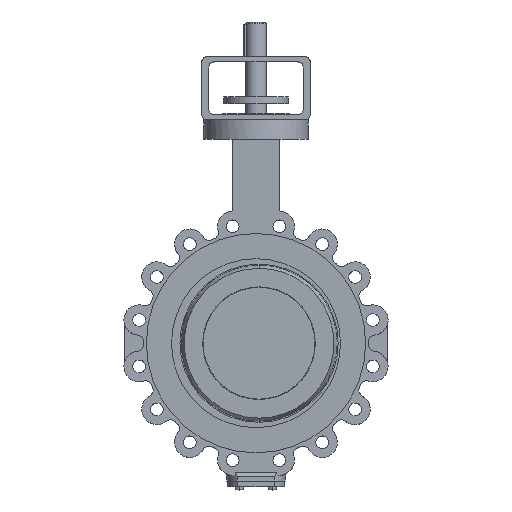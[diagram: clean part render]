
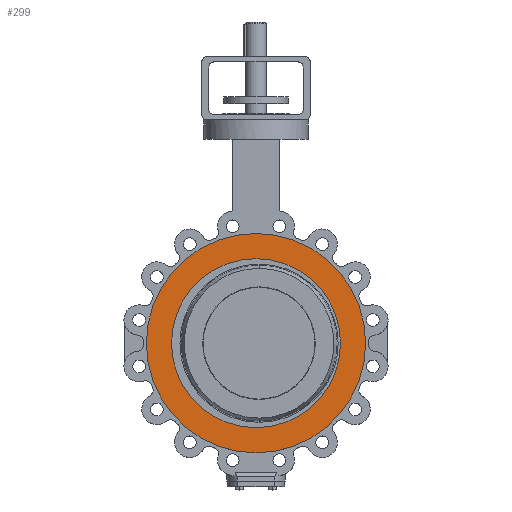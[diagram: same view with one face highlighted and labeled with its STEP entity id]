
A CAD part, top view. The second image highlights one B-rep face of the part: STEP entity #299.
In plain terms, the highlighted planar face has unit normal (0, 0, 1).
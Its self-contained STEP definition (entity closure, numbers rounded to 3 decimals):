
#299 = ADVANCED_FACE( '', ( #882, #883 ), #884, .T. );
#882 = FACE_BOUND( '', #1568, .T. );
#883 = FACE_OUTER_BOUND( '', #1569, .T. );
#884 = PLANE( '', #1570 );
#1568 = EDGE_LOOP( '', ( #3628, #3629, #3630 ) );
#1569 = EDGE_LOOP( '', ( #3631, #3632 ) );
#1570 = AXIS2_PLACEMENT_3D( '', #3633, #3634, #3635 );
#3628 = ORIENTED_EDGE( '', *, *, #4434, .F. );
#3629 = ORIENTED_EDGE( '', *, *, #4433, .F. );
#3630 = ORIENTED_EDGE( '', *, *, #5082, .F. );
#3631 = ORIENTED_EDGE( '', *, *, #4456, .T. );
#3632 = ORIENTED_EDGE( '', *, *, #5080, .T. );
#3633 = CARTESIAN_POINT( '', ( 0., 224., 70. ) );
#3634 = DIRECTION( '', ( 0., 0., 1. ) );
#3635 = DIRECTION( '', ( 0., 1., 0. ) );
#4433 = EDGE_CURVE( '', #5328, #5331, #5332, .T. );
#4434 = EDGE_CURVE( '', #5331, #5333, #5334, .T. );
#4456 = EDGE_CURVE( '', #5371, #5375, #5377, .T. );
#5080 = EDGE_CURVE( '', #5375, #5371, #6424, .T. );
#5082 = EDGE_CURVE( '', #5333, #5328, #6426, .T. );
#5328 = VERTEX_POINT( '', #6774 );
#5331 = VERTEX_POINT( '', #6778 );
#5332 = CIRCLE( '', #6779, 195. );
#5333 = VERTEX_POINT( '', #6780 );
#5334 = CIRCLE( '', #6781, 195. );
#5371 = VERTEX_POINT( '', #6827 );
#5375 = VERTEX_POINT( '', #6832 );
#5377 = CIRCLE( '', #6835, 253. );
#6424 = CIRCLE( '', #9009, 253. );
#6426 = CIRCLE( '', #9011, 195. );
#6774 = CARTESIAN_POINT( '', ( 195., 0., 70. ) );
#6778 = CARTESIAN_POINT( '', ( 0., 195., 70. ) );
#6779 = AXIS2_PLACEMENT_3D( '', #9507, #9508, #9509 );
#6780 = CARTESIAN_POINT( '', ( -195., 0., 70. ) );
#6781 = AXIS2_PLACEMENT_3D( '', #9510, #9511, #9512 );
#6827 = CARTESIAN_POINT( '', ( 0., 253., 70. ) );
#6832 = CARTESIAN_POINT( '', ( 0., -253., 70. ) );
#6835 = AXIS2_PLACEMENT_3D( '', #9554, #9555, #9556 );
#9009 = AXIS2_PLACEMENT_3D( '', #10752, #10753, #10754 );
#9011 = AXIS2_PLACEMENT_3D( '', #10758, #10759, #10760 );
#9507 = CARTESIAN_POINT( '', ( 0., 0., 70. ) );
#9508 = DIRECTION( '', ( 0., 0., 1. ) );
#9509 = DIRECTION( '', ( 0., 1., 0. ) );
#9510 = CARTESIAN_POINT( '', ( 0., 0., 70. ) );
#9511 = DIRECTION( '', ( 0., 0., 1. ) );
#9512 = DIRECTION( '', ( 0., 1., 0. ) );
#9554 = CARTESIAN_POINT( '', ( 0., 0., 70. ) );
#9555 = DIRECTION( '', ( 0., 0., 1. ) );
#9556 = DIRECTION( '', ( 0., 1., 0. ) );
#10752 = CARTESIAN_POINT( '', ( 0., 0., 70. ) );
#10753 = DIRECTION( '', ( 0., 0., 1. ) );
#10754 = DIRECTION( '', ( 0., 1., 0. ) );
#10758 = CARTESIAN_POINT( '', ( 0., 0., 70. ) );
#10759 = DIRECTION( '', ( 0., 0., 1. ) );
#10760 = DIRECTION( '', ( 0., 1., 0. ) );
